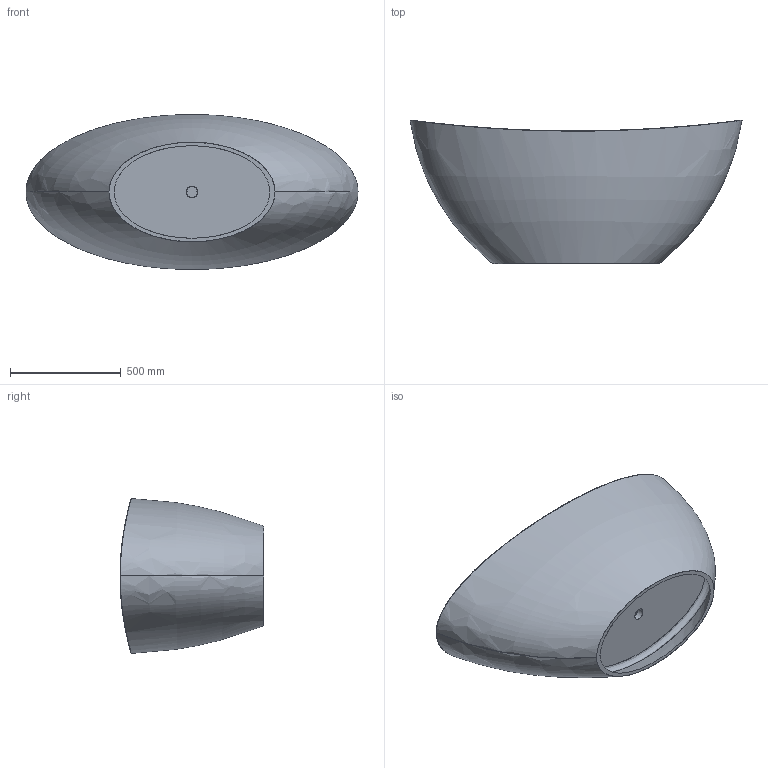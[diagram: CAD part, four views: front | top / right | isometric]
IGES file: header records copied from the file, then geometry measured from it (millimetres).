
Start section: SolidWorks IGES file using analytic representation for surfaces
Global section: file name: D:\Users\M.Szymanski\Desktop\Wanny\Namur\03. do przegrania\WOW_NAMUR_70x150.IGS; native system: SolidWorks 2011; preprocessor: SolidWorks 2011; author: M.Szymanski; date: 180416.082746; units: millimetre
Bounding box: 1499.63 x 649.82 x 699.89 mm (x, y, z)
Surface area: 4463427.8 mm2 (no closed solid volume)
Topology: 0 solids, 0 shells, 49 faces, 1116 edges, 1115 vertices
Faces by surface type: bspline 37, revolution 12
